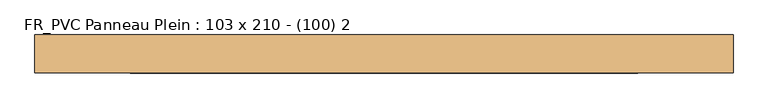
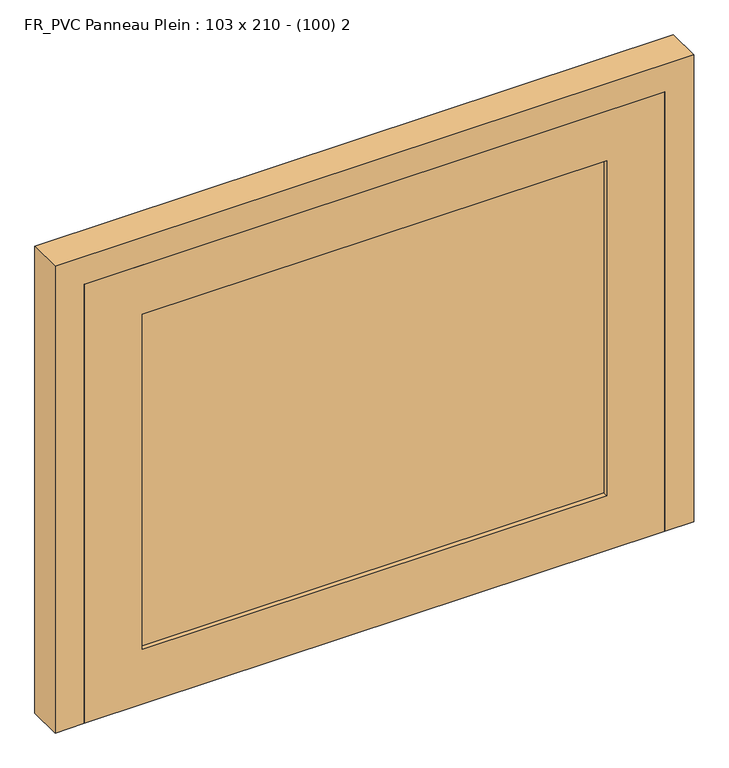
"""IFC4 building model written with IfcOpenShell, lengths in millimetres: door geometry, FR_PVC Panneau Plein : 103 x 210 - (100) 2."""

import ifcopenshell
import ifcopenshell.guid

model = None  # the IFC model being written
_history = None  # IfcOwnerHistory: only IFC2X3 demands one
_inside = {}  # id of a spatial element -> (the spatial element, [elements in it])
_under = {}  # id of a project, library or spatial element -> (it, [spatial elements below it])
_declared = {}  # id of a project -> (the project, [libraries it declares])
_typed = {}  # id of a type object -> (the type object, [elements of that type])
_made_of = {}  # id of a material, layer set ... -> (it, [elements and type objects made of it])


def new_model(schema):
    """Start an empty IFC model of exactly this schema.

    Asked for "IFC4X3", IfcOpenShell would pick the latest addendum, in which some entities
    have other attributes; the version numbers below select the first issue.
    IFC2X3 requires an IfcOwnerHistory on every rooted entity: one is made here for all.
    """
    global model, _history
    if schema == "IFC4X3":
        model = ifcopenshell.file(schema_version=(4, 3, 0, 0))
    else:
        model = ifcopenshell.file(schema=schema)
    _inside.clear()
    _under.clear()
    _declared.clear()
    _typed.clear()
    _made_of.clear()
    _history = None
    if model.schema == "IFC2X3":
        org = make("IfcOrganization", Name="unknown")
        user = make(
            "IfcPersonAndOrganization",
            ThePerson=make("IfcPerson", FamilyName="unknown"),
            TheOrganization=org,
        )
        app = make(
            "IfcApplication",
            ApplicationDeveloper=org,
            Version="unknown",
            ApplicationFullName="unknown",
            ApplicationIdentifier="unknown",
        )
        _history = make(
            "IfcOwnerHistory",
            OwningUser=user,
            OwningApplication=app,
            ChangeAction="ADDED",
            CreationDate=0,
        )
    return model


def make(cls, **values):
    """One entity of the class cls with the attributes given. An attribute that is None is left unset."""
    return model.create_entity(
        cls, **{name: value for name, value in values.items() if value is not None}
    )


def rooted(cls, **values):
    """An entity with a GlobalId (a new one), such as an element, a storey or a relation."""
    return make(cls, GlobalId=ifcopenshell.guid.new(), OwnerHistory=_history, **values)


def si_unit(unit_type, name, prefix=None):
    """IfcSIUnit, for example si_unit("LENGTHUNIT", "METRE", prefix="MILLI")."""
    return make("IfcSIUnit", UnitType=unit_type, Prefix=prefix, Name=name)


def assignment(units):
    """IfcUnitAssignment: the units of a project."""
    return None if units is None else make("IfcUnitAssignment", Units=units)


def point(xyz):
    """IfcCartesianPoint."""
    return None if xyz is None else make("IfcCartesianPoint", Coordinates=xyz)


def direction(xyz):
    """IfcDirection."""
    return None if xyz is None else make("IfcDirection", DirectionRatios=xyz)


def frame(location, z_axis=None, x_axis=None):
    """IfcAxis2Placement3D, a coordinate frame: its origin and axes. An axis left out is left unset."""
    return make(
        "IfcAxis2Placement3D",
        Location=point(location),
        Axis=direction(z_axis),
        RefDirection=direction(x_axis),
    )


def origin():
    """The frame at (0, 0, 0) with its axes left unset."""
    return frame((0.0, 0.0, 0.0))


def place(relative_to, where):
    """IfcLocalPlacement: puts the frame where relative to a parent placement (None: the world)."""
    return make(
        "IfcLocalPlacement", PlacementRelTo=relative_to, RelativePlacement=where
    )


def context(
    kind, dimensions, precision=None, world=None, true_north=None, identifier=None
):
    """IfcGeometricRepresentationContext, for example the 3D "Model" context."""
    return make(
        "IfcGeometricRepresentationContext",
        ContextIdentifier=identifier,
        ContextType=kind,
        CoordinateSpaceDimension=dimensions,
        Precision=precision,
        WorldCoordinateSystem=world,
        TrueNorth=true_north,
    )


def project(units=None, contexts=None):
    """IfcProject with its units and contexts."""
    return rooted(
        "IfcProject",
        Name="project",
        RepresentationContexts=contexts,
        UnitsInContext=assignment(units),
    )


def spatial(cls, under=None, at=None, **own):
    """A site, building, storey or space (cls), placed at a placement, below another one or the project."""
    s = rooted(cls, ObjectPlacement=at, **own)
    if under is not None:
        _under.setdefault(under.id(), (under, []))[1].append(s)
    return s


def faces_of(points, faces, orient=None, outer=None):
    """IfcFace entities. A face is a list of loops; a loop is a list of indices into points, from 0.

    orient and outer hold one flag for each loop. By default every Orientation is true, the
    first loop of a face is its IfcFaceOuterBound and the others are IfcFaceBound.
    """
    made = []
    for i, loops in enumerate(faces):
        bounds = []
        for j, loop in enumerate(loops):
            is_outer = j == 0 if outer is None else outer[i][j]
            bounds.append(
                make(
                    "IfcFaceOuterBound" if is_outer else "IfcFaceBound",
                    Bound=make("IfcPolyLoop", Polygon=[points[k] for k in loop]),
                    Orientation=True if orient is None else orient[i][j],
                )
            )
        made.append(make("IfcFace", Bounds=bounds))
    return made


def faceted_brep(points, faces, orient=None, outer=None, voids=None):
    """IfcFacetedBrep: a solid bounded by flat faces; with voids (closed shells), ...WithVoids."""
    shared = [point(p) for p in points]
    hull = make("IfcClosedShell", CfsFaces=faces_of(shared, faces, orient, outer))
    if voids is None:
        return make("IfcFacetedBrep", Outer=hull)
    return make(
        "IfcFacetedBrepWithVoids",
        Outer=hull,
        Voids=[
            make(cls, CfsFaces=faces_of(shared, fs, o, b)) for cls, fs, o, b in voids
        ],
    )


def shape(context_of_items, identifier, shape_type, items):
    """IfcShapeRepresentation: the items that make up one representation, for example the "Body"."""
    return make(
        "IfcShapeRepresentation",
        ContextOfItems=context_of_items,
        RepresentationIdentifier=identifier,
        RepresentationType=shape_type,
        Items=items,
    )


def source(mapping_origin, context_of_items, identifier, shape_type, items):
    """IfcRepresentationMap: a shape defined once, which mapped items show again and again."""
    return make(
        "IfcRepresentationMap",
        MappingOrigin=mapping_origin,
        MappedRepresentation=shape(context_of_items, identifier, shape_type, items),
    )


def transform(
    local_origin,
    x_axis=None,
    y_axis=None,
    z_axis=None,
    scale=None,
    scale2=None,
    scale3=None,
    uniform=True,
):
    """IfcCartesianTransformationOperator3D, or its non-uniform kind. x_axis, y_axis, z_axis: its Axis1, 2, 3."""
    if uniform:
        return make(
            "IfcCartesianTransformationOperator3D",
            Axis1=direction(x_axis),
            Axis2=direction(y_axis),
            LocalOrigin=point(local_origin),
            Scale=scale,
            Axis3=direction(z_axis),
        )
    return make(
        "IfcCartesianTransformationOperator3DnonUniform",
        Axis1=direction(x_axis),
        Axis2=direction(y_axis),
        LocalOrigin=point(local_origin),
        Scale=scale,
        Axis3=direction(z_axis),
        Scale2=scale2,
        Scale3=scale3,
    )


def mapped(mapping_source, mapping_target):
    """IfcMappedItem: shows the shape of a source again, moved by a transform."""
    return make(
        "IfcMappedItem", MappingSource=mapping_source, MappingTarget=mapping_target
    )


def made_of(thing, what):
    """Note that an element or type object is made of a material, layer set ...; save() writes the relation."""
    if what is not None:
        _made_of.setdefault(what.id(), (what, []))[1].append(thing)
    return thing


def element(
    cls,
    number,
    at=None,
    inside=None,
    cuts=None,
    type_object=None,
    material=None,
    context=None,
    identifier="Body",
    shape_type=None,
    held_by="IfcProductDefinitionShape",
    body=None,
    shapes=None,
    **own,
):
    """One element of the class cls, such as IfcWall. Its Tag is "e" and its number.

    at: its placement. inside: the storey or other place that contains it. cuts: it is an
    opening in that element (IfcRelVoidsElement). A single representation is given by context,
    identifier, shape_type and body (its items); several are given by shapes. held_by: the class
    of the entity that holds the representations. save() writes the other relations.
    """
    e = rooted(cls, Tag="e%d" % number, ObjectPlacement=at, **own)
    if body is not None:
        shapes = [shape(context, identifier, shape_type, body)]
    if shapes is not None:
        e.Representation = make(held_by, Representations=shapes)
    if inside is not None:
        _inside.setdefault(inside.id(), (inside, []))[1].append(e)
    if cuts is not None:
        rooted(
            "IfcRelVoidsElement", RelatingBuildingElement=cuts, RelatedOpeningElement=e
        )
    if type_object is not None:
        _typed.setdefault(type_object.id(), (type_object, []))[1].append(e)
    return made_of(e, material)


def aggregate(whole, parts):
    """IfcRelAggregates: a whole, such as a stair, and the parts it consists of."""
    return rooted("IfcRelAggregates", RelatingObject=whole, RelatedObjects=parts)


def save(model, path):
    """Write the relations noted so far, then the file.

    IfcRelAggregates (storeys below a building ...), IfcRelContainedInSpatialStructure (elements
    in a storey), IfcRelDefinesByType, IfcRelAssociatesMaterial and IfcRelDeclares: one each for
    every whole, place, type object, material and project.
    """
    for whole, parts in _under.values():
        aggregate(whole, parts)
    for where, things in _inside.values():
        rooted(
            "IfcRelContainedInSpatialStructure",
            RelatedElements=things,
            RelatingStructure=where,
        )
    for kind, things in _typed.values():
        rooted("IfcRelDefinesByType", RelatedObjects=things, RelatingType=kind)
    for what, things in _made_of.values():
        rooted("IfcRelAssociatesMaterial", RelatedObjects=things, RelatingMaterial=what)
    for by, libraries in _declared.values():
        rooted("IfcRelDeclares", RelatingContext=by, RelatedDefinitions=libraries)
    model.write(path)


def fr_pvc_panneau_plein_103_x_210_100_2_cbfb355a(model_context):
    return source(origin(), model_context, "Body", "Brep", [
        faceted_brep([(-550.0, -138.7935702, 0.0), (-550.0, -78.7935702, 0.0), (-485.0, -78.7935702, 0.0), (-485.0, -98.7935702, 0.0), (-500.0, -98.7935702, 0.0), (-500.0, -138.7935702, 0.0), (-550.0, -138.7935702, 850.0), (-550.0, -78.7935702, 850.0), (550.0, -78.7935702, 850.0), (550.0, -78.7935702, 0.0), (485.0, -78.7935702, 0.0), (485.0, -78.7935702, 785.0), (-485.0, -78.7935702, 785.0), (-485.0, -98.7935702, 785.0), (485.0, -98.7935702, 785.0), (485.0, -98.7935702, 0.0), (500.0, -98.7935702, 0.0), (500.0, -98.7935702, 800.0), (-500.0, -98.7935702, 800.0), (-500.0, -138.7935702, 800.0), (500.0, -138.7935702, 800.0), (500.0, -138.7935702, 0.0), (550.0, -138.7935702, 0.0), (550.0, -138.7935702, 850.0)], [[[0, 1, 2, 3, 4, 5]], [[1, 0, 6, 7]], [[2, 1, 7, 8, 9, 10, 11, 12]], [[3, 2, 12, 13]], [[4, 3, 13, 14, 15, 16, 17, 18]], [[5, 4, 18, 19]], [[0, 5, 19, 20, 21, 22, 23, 6]], [[9, 8, 23, 22]], [[10, 9, 22, 21, 16, 15]], [[11, 10, 15, 14]], [[17, 16, 21, 20]], [[7, 6, 23, 8]], [[12, 11, 14, 13]], [[18, 17, 20, 19]]]),
        faceted_brep([(-500.0, -138.7935702, 800.0), (-500.0, -138.7935702, 0.0), (500.0, -138.7935702, 0.0), (500.0, -138.7935702, 800.0), (400.0, -138.7935702, 710.0), (400.0, -138.7935702, 100.0), (-400.0, -138.7935702, 100.0), (-400.0, -138.7935702, 710.0), (-500.0, -98.7935702, 800.0), (500.0, -98.7935702, 800.0), (500.0, -98.7935702, 0.0), (-500.0, -98.7935702, 0.0), (-400.0, -98.7935702, 710.0), (-400.0, -98.7935702, 100.0), (400.0, -98.7935702, 100.0), (400.0, -98.7935702, 710.0), (400.0, -130.7935702, 710.0), (-400.0, -130.7935702, 710.0), (-400.0, -130.7935702, 100.0), (400.0, -130.7935702, 100.0), (-400.0, -106.7935702, 710.0), (400.0, -106.7935702, 710.0), (400.0, -106.7935702, 100.0), (-400.0, -106.7935702, 100.0)], [[[0, 1, 2, 3], [4, 5, 6, 7]], [[8, 9, 10, 11], [12, 13, 14, 15]], [[1, 0, 8, 11]], [[2, 1, 11, 10]], [[3, 2, 10, 9]], [[0, 3, 9, 8]], [[16, 17, 18, 19]], [[16, 19, 5, 4]], [[19, 18, 6, 5]], [[18, 17, 7, 6]], [[17, 16, 4, 7]], [[20, 21, 22, 23]], [[20, 23, 13, 12]], [[23, 22, 14, 13]], [[22, 21, 15, 14]], [[21, 20, 12, 15]]]),
    ])


if __name__ == "__main__":
    model = new_model("IFC4")
    model_context = context("Model", 3, world=origin())
    ifc_project = project(units=[si_unit("LENGTHUNIT", "METRE", prefix="MILLI")], contexts=[model_context])
    site = spatial("IfcSite", under=ifc_project)
    building = spatial("IfcBuilding", under=site)
    placement = place(None, origin())
    fr_pvc_panneau_plein_103_x_210_100_2_shape = fr_pvc_panneau_plein_103_x_210_100_2_cbfb355a(model_context)
    element("IfcDoor", 1, ObjectType="FR_PVC Panneau Plein : 103 x 210 - (100) 2", at=placement, inside=building, context=model_context, shape_type="MappedRepresentation", body=[
        mapped(fr_pvc_panneau_plein_103_x_210_100_2_shape, transform((0.0, 0.0, 0.0), x_axis=(1.0, 0.0, 0.0), y_axis=(0.0, 1.0, 0.0), z_axis=(0.0, 0.0, 1.0))),
    ])
    save(model, "model.ifc")
